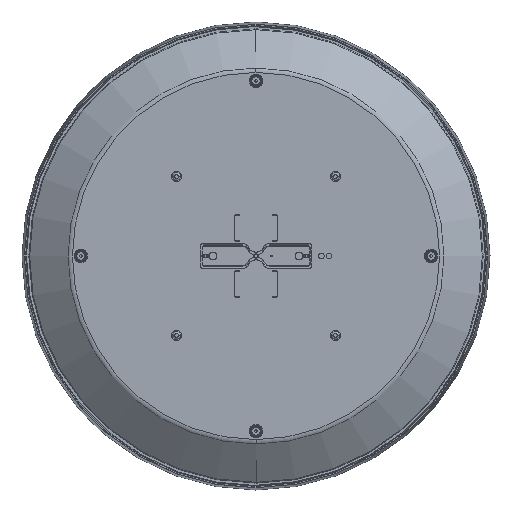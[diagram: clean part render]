
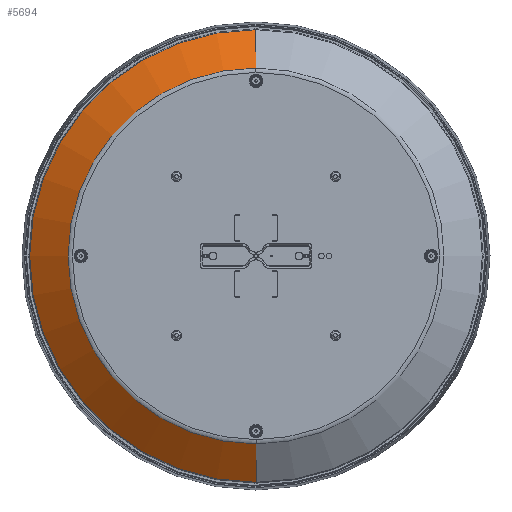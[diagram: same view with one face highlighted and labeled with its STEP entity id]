
A CAD part, front view. The second image highlights one B-rep face of the part: STEP entity #5694.
In plain terms, the highlighted conical face has half-angle 54.77 degrees and reference radius 221.626 mm.
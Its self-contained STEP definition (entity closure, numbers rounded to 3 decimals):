
#1402=CARTESIAN_POINT('',(0.,-26.785,0.));
#1403=DIRECTION('',(0.,1.,0.));
#1404=DIRECTION('',(0.,0.,-1.));
#1405=AXIS2_PLACEMENT_3D('',#1402,#1403,#1404);
#1407=CARTESIAN_POINT('',(0.,-26.785,0.));
#1408=DIRECTION('',(0.,1.,0.));
#1409=DIRECTION('',(0.,0.,-1.));
#1410=AXIS2_PLACEMENT_3D('',#1407,#1408,#1409);
#1417=DIRECTION('',(0.,0.577,-0.817));
#1418=VECTOR('',#1417,50.21);
#1419=CARTESIAN_POINT('',(0.,-26.785,-201.119));
#1420=LINE('',#1419,#1418);
#1421=CARTESIAN_POINT('',(0.,2.179,0.));
#1422=DIRECTION('',(0.,1.,0.));
#1423=DIRECTION('',(0.,0.,-1.));
#1424=AXIS2_PLACEMENT_3D('',#1421,#1422,#1423);
#1426=CARTESIAN_POINT('',(0.,2.179,0.));
#1427=DIRECTION('',(0.,1.,0.));
#1428=DIRECTION('',(0.,0.,-1.));
#1429=AXIS2_PLACEMENT_3D('',#1426,#1427,#1428);
#1431=DIRECTION('',(0.,0.577,0.817));
#1432=VECTOR('',#1431,50.21);
#1433=CARTESIAN_POINT('',(0.,-26.785,201.119));
#1434=LINE('',#1433,#1432);
#4335=CARTESIAN_POINT('',(0.,-26.785,
201.119));
#4336=VERTEX_POINT('',#4335);
#4338=CARTESIAN_POINT('',(0.,-26.785,
-201.119));
#4340=VERTEX_POINT('',#4338);
#4341=CARTESIAN_POINT('',(-0.02,-26.785,
-201.119));
#4342=VERTEX_POINT('',#4341);
#4343=CARTESIAN_POINT('',(0.,2.179,
-242.132));
#4344=VERTEX_POINT('',#4343);
#4345=CARTESIAN_POINT('',(0.,2.179,
242.132));
#4346=CARTESIAN_POINT('',(-0.024,2.179,
-242.132));
#4347=VERTEX_POINT('',#4345);
#4348=VERTEX_POINT('',#4346);
#5677=CARTESIAN_POINT('',(0.,-12.303,0.));
#5678=DIRECTION('',(0.,1.,0.));
#5679=DIRECTION('',(0.,0.,-1.));
#5680=AXIS2_PLACEMENT_3D('',#5677,#5678,#5679);
#5681=CONICAL_SURFACE('',#5680,221.626,54.77);
#5682=ORIENTED_EDGE('',*,*,#5671,.F.);
#5683=ORIENTED_EDGE('',*,*,#5669,.F.);
#5685=ORIENTED_EDGE('',*,*,#5684,.T.);
#5687=ORIENTED_EDGE('',*,*,#5686,.T.);
#5689=ORIENTED_EDGE('',*,*,#5688,.T.);
#5691=ORIENTED_EDGE('',*,*,#5690,.F.);
#5692=EDGE_LOOP('',(#5682,#5683,#5685,#5687,#5689,#5691));
#5693=FACE_OUTER_BOUND('',#5692,.F.);
#5694=ADVANCED_FACE('',(#5693),#5681,.T.);
#1406=CIRCLE('',#1405,201.119);
#1411=CIRCLE('',#1410,201.119);
#1425=CIRCLE('',#1424,242.132);
#1430=CIRCLE('',#1429,242.132);
#5669=EDGE_CURVE('',#4340,#4342,#1406,.T.);
#5671=EDGE_CURVE('',#4342,#4336,#1411,.T.);
#5684=EDGE_CURVE('',#4340,#4344,#1420,.T.);
#5686=EDGE_CURVE('',#4344,#4348,#1425,.T.);
#5688=EDGE_CURVE('',#4348,#4347,#1430,.T.);
#5690=EDGE_CURVE('',#4336,#4347,#1434,.T.);
